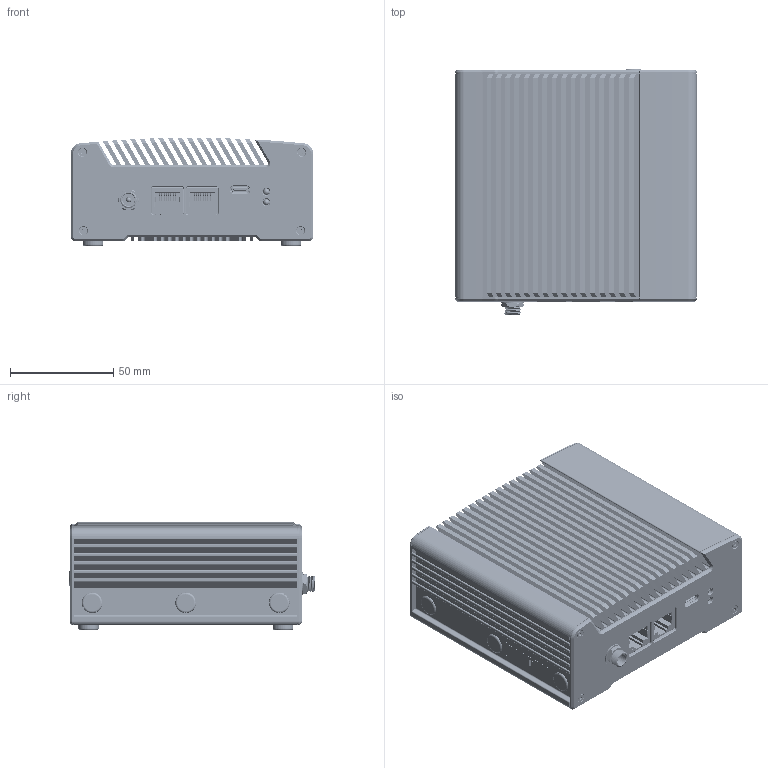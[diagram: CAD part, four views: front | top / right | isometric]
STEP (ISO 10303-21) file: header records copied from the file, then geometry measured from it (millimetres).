
FILE_DESCRIPTION(/* description */ (''),/* implementation_level */ '2;1');
FILE_NAME(/* name */ 'V1210_Full_Unit_With_Components.step',/* time_stamp */ '2025-08-27T17:05:07-07:00',/* author */ (''),/* organization */ (''),/* preprocessor_version */ 'ST-DEVELOPER v20.1',/* originating_system */ 'Autodesk Translation Framework v14.4.0.0',/* authorisation */ '');
FILE_SCHEMA (('AUTOMOTIVE_DESIGN { 1 0 10303 214 3 1 1 }'));
Length unit declared in the file: millimetre
Products named in the file (1): huan4FFCjhif
Bounding box: 117 x 118.5 x 52.5 mm (x, y, z)
Volume: 344734.9 mm3; surface area: 288357.9 mm2
Topology: 364 solids, 365 shells, 19077 faces, 51957 edges, 34128 vertices
Faces by surface type: plane 12596, cylinder 4139, bspline 1587, cone 412, torus 319, sphere 24
Full cylindrical faces by diameter (mm): 0.25 x2, 0.376 x2, 0.45 x2, 0.5 x7, 0.518 x2, 0.75 x1, 0.95 x6, 0.991 x2, 1 x15, 1.2 x2, 1.26 x2, 1.344 x1, 1.5 x21, 1.6 x243, 1.9 x3, 1.97 x1, 2 x206, 2.2 x20, 2.3 x2, 2.5 x45, 2.6 x2, 2.75 x4, 2.85 x6, 3 x47, 3.2 x6, 3.3 x2, 3.4 x2, 3.5 x8, 3.6 x1, 3.8 x32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
Entity records: 804494 total; most frequent: CARTESIAN_POINT 326730, ORIENTED_EDGE 103836, DIRECTION 90825, EDGE_CURVE 51918, LINE 38815, VECTOR 38815, VERTEX_POINT 34131, AXIS2_PLACEMENT_3D 26005
